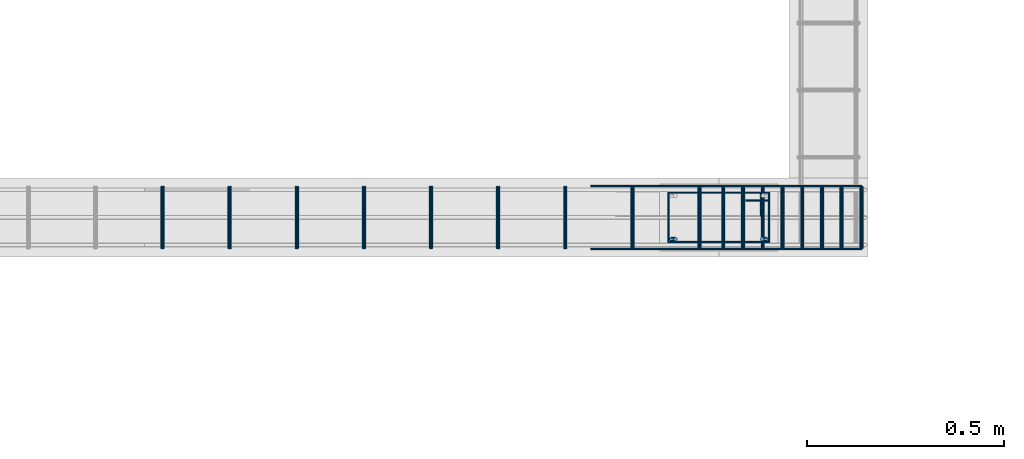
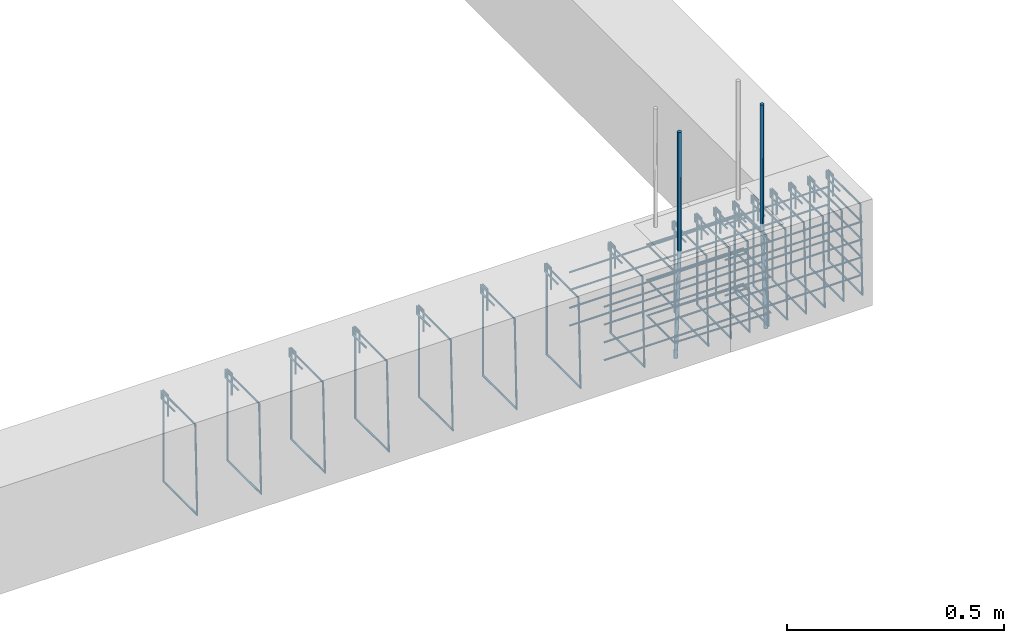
# One storey, part 73 of 150: 26 reinforcing bars.
"""IFC4 building model written with IfcOpenShell, lengths in centimetres."""

import ifcopenshell
import ifcopenshell.guid

model = None  # the IFC model being written
_history = None  # IfcOwnerHistory: only IFC2X3 demands one
_inside = {}  # id of a spatial element -> (the spatial element, [elements in it])
_under = {}  # id of a project, library or spatial element -> (it, [spatial elements below it])
_declared = {}  # id of a project -> (the project, [libraries it declares])
_typed = {}  # id of a type object -> (the type object, [elements of that type])
_made_of = {}  # id of a material, layer set ... -> (it, [elements and type objects made of it])


def new_model(schema):
    """Start an empty IFC model of exactly this schema.

    Asked for "IFC4X3", IfcOpenShell would pick the latest addendum, in which some entities
    have other attributes; the version numbers below select the first issue.
    IFC2X3 requires an IfcOwnerHistory on every rooted entity: one is made here for all.
    """
    global model, _history
    if schema == "IFC4X3":
        model = ifcopenshell.file(schema_version=(4, 3, 0, 0))
    else:
        model = ifcopenshell.file(schema=schema)
    _inside.clear()
    _under.clear()
    _declared.clear()
    _typed.clear()
    _made_of.clear()
    _history = None
    if model.schema == "IFC2X3":
        org = make("IfcOrganization", Name="unknown")
        user = make(
            "IfcPersonAndOrganization",
            ThePerson=make("IfcPerson", FamilyName="unknown"),
            TheOrganization=org,
        )
        app = make(
            "IfcApplication",
            ApplicationDeveloper=org,
            Version="unknown",
            ApplicationFullName="unknown",
            ApplicationIdentifier="unknown",
        )
        _history = make(
            "IfcOwnerHistory",
            OwningUser=user,
            OwningApplication=app,
            ChangeAction="ADDED",
            CreationDate=0,
        )
    return model


def make(cls, **values):
    """One entity of the class cls with the attributes given. An attribute that is None is left unset."""
    return model.create_entity(
        cls, **{name: value for name, value in values.items() if value is not None}
    )


def entity(cls, *values):
    """Any entity or typed value of the class cls, its attributes in the order of the schema. None: left unset."""
    e = model.create_entity(cls)
    for i, value in enumerate(values):
        if value is not None:
            e[i] = value
    return e


def rooted(cls, **values):
    """An entity with a GlobalId (a new one), such as an element, a storey or a relation."""
    return make(cls, GlobalId=ifcopenshell.guid.new(), OwnerHistory=_history, **values)


def si_unit(unit_type, name, prefix=None):
    """IfcSIUnit, for example si_unit("LENGTHUNIT", "METRE", prefix="MILLI")."""
    return make("IfcSIUnit", UnitType=unit_type, Prefix=prefix, Name=name)


def derived_unit(unit_type, elements):
    """IfcDerivedUnit: a product of units, each with its exponent."""
    return make(
        "IfcDerivedUnit",
        Elements=[
            make("IfcDerivedUnitElement", Unit=unit, Exponent=power)
            for unit, power in elements
        ],
        UnitType=unit_type,
    )


def assignment(units):
    """IfcUnitAssignment: the units of a project."""
    return None if units is None else make("IfcUnitAssignment", Units=units)


def point(xyz):
    """IfcCartesianPoint."""
    return None if xyz is None else make("IfcCartesianPoint", Coordinates=xyz)


def direction(xyz):
    """IfcDirection."""
    return None if xyz is None else make("IfcDirection", DirectionRatios=xyz)


def frame(location, z_axis=None, x_axis=None):
    """IfcAxis2Placement3D, a coordinate frame: its origin and axes. An axis left out is left unset."""
    return make(
        "IfcAxis2Placement3D",
        Location=point(location),
        Axis=direction(z_axis),
        RefDirection=direction(x_axis),
    )


def origin_with_axes():
    """The frame at (0, 0, 0) with the z axis (0, 0, 1) and the x axis (1, 0, 0) written out."""
    return frame((0.0, 0.0, 0.0), z_axis=(0.0, 0.0, 1.0), x_axis=(1.0, 0.0, 0.0))


def place(relative_to, where):
    """IfcLocalPlacement: puts the frame where relative to a parent placement (None: the world)."""
    return make(
        "IfcLocalPlacement", PlacementRelTo=relative_to, RelativePlacement=where
    )


def context(
    kind, dimensions, precision=None, world=None, true_north=None, identifier=None
):
    """IfcGeometricRepresentationContext, for example the 3D "Model" context."""
    return make(
        "IfcGeometricRepresentationContext",
        ContextIdentifier=identifier,
        ContextType=kind,
        CoordinateSpaceDimension=dimensions,
        Precision=precision,
        WorldCoordinateSystem=world,
        TrueNorth=true_north,
    )


def project(units=None, contexts=None):
    """IfcProject with its units and contexts."""
    return rooted(
        "IfcProject",
        Name="project",
        RepresentationContexts=contexts,
        UnitsInContext=assignment(units),
    )


def spatial(cls, under=None, at=None, **own):
    """A site, building, storey or space (cls), placed at a placement, below another one or the project."""
    s = rooted(cls, ObjectPlacement=at, **own)
    if under is not None:
        _under.setdefault(under.id(), (under, []))[1].append(s)
    return s


def shape(context_of_items, identifier, shape_type, items):
    """IfcShapeRepresentation: the items that make up one representation, for example the "Body"."""
    return make(
        "IfcShapeRepresentation",
        ContextOfItems=context_of_items,
        RepresentationIdentifier=identifier,
        RepresentationType=shape_type,
        Items=items,
    )


def source(mapping_origin, context_of_items, identifier, shape_type, items):
    """IfcRepresentationMap: a shape defined once, which mapped items show again and again."""
    return make(
        "IfcRepresentationMap",
        MappingOrigin=mapping_origin,
        MappedRepresentation=shape(context_of_items, identifier, shape_type, items),
    )


def transform(
    local_origin,
    x_axis=None,
    y_axis=None,
    z_axis=None,
    scale=None,
    scale2=None,
    scale3=None,
    uniform=True,
):
    """IfcCartesianTransformationOperator3D, or its non-uniform kind. x_axis, y_axis, z_axis: its Axis1, 2, 3."""
    if uniform:
        return make(
            "IfcCartesianTransformationOperator3D",
            Axis1=direction(x_axis),
            Axis2=direction(y_axis),
            LocalOrigin=point(local_origin),
            Scale=scale,
            Axis3=direction(z_axis),
        )
    return make(
        "IfcCartesianTransformationOperator3DnonUniform",
        Axis1=direction(x_axis),
        Axis2=direction(y_axis),
        LocalOrigin=point(local_origin),
        Scale=scale,
        Axis3=direction(z_axis),
        Scale2=scale2,
        Scale3=scale3,
    )


def mapped(mapping_source, mapping_target):
    """IfcMappedItem: shows the shape of a source again, moved by a transform."""
    return make(
        "IfcMappedItem", MappingSource=mapping_source, MappingTarget=mapping_target
    )


def made_of(thing, what):
    """Note that an element or type object is made of a material, layer set ...; save() writes the relation."""
    if what is not None:
        _made_of.setdefault(what.id(), (what, []))[1].append(thing)
    return thing


def element(
    cls,
    number,
    at=None,
    inside=None,
    cuts=None,
    type_object=None,
    material=None,
    context=None,
    identifier="Body",
    shape_type=None,
    held_by="IfcProductDefinitionShape",
    body=None,
    shapes=None,
    **own,
):
    """One element of the class cls, such as IfcWall. Its Tag is "e" and its number.

    at: its placement. inside: the storey or other place that contains it. cuts: it is an
    opening in that element (IfcRelVoidsElement). A single representation is given by context,
    identifier, shape_type and body (its items); several are given by shapes. held_by: the class
    of the entity that holds the representations. save() writes the other relations.
    """
    e = rooted(cls, Tag="e%d" % number, ObjectPlacement=at, **own)
    if body is not None:
        shapes = [shape(context, identifier, shape_type, body)]
    if shapes is not None:
        e.Representation = make(held_by, Representations=shapes)
    if inside is not None:
        _inside.setdefault(inside.id(), (inside, []))[1].append(e)
    if cuts is not None:
        rooted(
            "IfcRelVoidsElement", RelatingBuildingElement=cuts, RelatedOpeningElement=e
        )
    if type_object is not None:
        _typed.setdefault(type_object.id(), (type_object, []))[1].append(e)
    return made_of(e, material)


def aggregate(whole, parts):
    """IfcRelAggregates: a whole, such as a stair, and the parts it consists of."""
    return rooted("IfcRelAggregates", RelatingObject=whole, RelatedObjects=parts)


def save(model, path):
    """Write the relations noted so far, then the file.

    IfcRelAggregates (storeys below a building ...), IfcRelContainedInSpatialStructure (elements
    in a storey), IfcRelDefinesByType, IfcRelAssociatesMaterial and IfcRelDeclares: one each for
    every whole, place, type object, material and project.
    """
    for whole, parts in _under.values():
        aggregate(whole, parts)
    for where, things in _inside.values():
        rooted(
            "IfcRelContainedInSpatialStructure",
            RelatedElements=things,
            RelatingStructure=where,
        )
    for kind, things in _typed.values():
        rooted("IfcRelDefinesByType", RelatedObjects=things, RelatingType=kind)
    for what, things in _made_of.values():
        rooted("IfcRelAssociatesMaterial", RelatedObjects=things, RelatingMaterial=what)
    for by, libraries in _declared.values():
        rooted("IfcRelDeclares", RelatingContext=by, RelatedDefinitions=libraries)
    model.write(path)


model = new_model("IFC4")

# Units and contexts
model_context = context("Model", 3, precision=1e-05, world=origin_with_axes(), identifier="Body")
ifc_project = project(units=[si_unit("LENGTHUNIT", "METRE", prefix="CENTI"), si_unit("VOLUMEUNIT", "CUBIC_METRE"), si_unit("AREAUNIT", "SQUARE_METRE"), si_unit("POWERUNIT", "WATT"), si_unit("LUMINOUSFLUXUNIT", "LUMEN"), si_unit("ELECTRICCURRENTUNIT", "AMPERE"), si_unit("PRESSUREUNIT", "PASCAL", prefix="KILO"), si_unit("MASSUNIT", "GRAM", prefix="KILO"), si_unit("PLANEANGLEUNIT", "RADIAN"), derived_unit("VOLUMETRICFLOWRATEUNIT", [(si_unit("LENGTHUNIT", "METRE"), 3), (si_unit("TIMEUNIT", "SECOND"), -1)])], contexts=[model_context])

# Site, building, storey
site_placement = place(None, frame((-4000.0, 0.0, 0.0), z_axis=(0.0, 0.0, 1.0), x_axis=(1.0, 0.0, 0.0)))
site = spatial("IfcSite", under=ifc_project, at=site_placement, Name="PADRÃO")
building_placement = place(site_placement, frame((0.0, 0.0, -14.0)))
building = spatial("IfcBuilding", under=site, at=building_placement, Name="CRECHE PRÉ-ESCOLA TIPO 2")
placement = place(building_placement, origin_with_axes())
storey_placement = place(placement, frame((0.0, 0.0, 30.0), z_axis=(0.0, 0.0, 1.0), x_axis=(1.0, 0.0, 0.0)))
storey = spatial("IfcBuildingStorey", under=building, at=storey_placement, Name="VIGA BALDRAME", CompositionType="ELEMENT", Elevation=16.0)

# Reinforcing bars
shared_shape_1 = source(origin_with_axes(), model_context, "Body", "AdvancedSweptSolid", [
    entity("IfcSweptDiskSolid", entity("IfcCompositeCurve", [entity("IfcCompositeCurveSegment", "CONTINUOUS", True, entity("IfcPolyline", [entity("IfcCartesianPoint", [4.25, 21.75, 0.0]), entity("IfcCartesianPoint", [4.25, 27.75, 0.0])])), entity("IfcCompositeCurveSegment", "CONTINUOUS", True, entity("IfcPolyline", [entity("IfcCartesianPoint", [4.25, 27.75, 0.0]), entity("IfcCartesianPoint", [2.25, 27.75, 0.0])])), entity("IfcCompositeCurveSegment", "CONTINUOUS", True, entity("IfcPolyline", [entity("IfcCartesianPoint", [2.25, 27.75, 0.0]), entity("IfcCartesianPoint", [2.25, 2.25, 0.0])])), entity("IfcCompositeCurveSegment", "CONTINUOUS", True, entity("IfcPolyline", [entity("IfcCartesianPoint", [2.25, 2.25, 0.0]), entity("IfcCartesianPoint", [14.75, 2.25, 0.0])])), entity("IfcCompositeCurveSegment", "CONTINUOUS", True, entity("IfcPolyline", [entity("IfcCartesianPoint", [14.75, 2.25, 0.0]), entity("IfcCartesianPoint", [14.75, 27.75, -0.5])])), entity("IfcCompositeCurveSegment", "CONTINUOUS", True, entity("IfcPolyline", [entity("IfcCartesianPoint", [14.75, 27.75, -0.5]), entity("IfcCartesianPoint", [2.25, 27.75, -0.5])])), entity("IfcCompositeCurveSegment", "CONTINUOUS", True, entity("IfcPolyline", [entity("IfcCartesianPoint", [2.25, 27.75, -0.5]), entity("IfcCartesianPoint", [2.25, 25.75, -0.5])])), entity("IfcCompositeCurveSegment", "CONTINUOUS", True, entity("IfcPolyline", [entity("IfcCartesianPoint", [2.25, 25.75, -0.5]), entity("IfcCartesianPoint", [8.25, 25.75, -0.5])]))], False), 0.25),
])
for number, where, z_axis, x_axis, name in (
    (1, (1378.25, 3208.52, -25.0), (0.0, 0.0, 1.0), (0.0, -1.0, 0.0), "P51 - Estribo"),
    (2, (1378.25, 3208.52, -15.0), (0.0, 0.0, 1.0), (0.0, -1.0, 0.0), "P51 - Estribo"),
    (3, (1378.25, 3208.52, -5.0), (0.0, 0.0, 1.0), (0.0, -1.0, 0.0), "P51 - Estribo"),
):
    element("IfcReinforcingBar", number, at=place(storey_placement, frame(where, z_axis=z_axis, x_axis=x_axis)), inside=storey, Name=name, BarLength=0.0, CrossSectionArea=1.9634954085e-05, NominalDiameter=0.5, PredefinedType="MAIN", context=model_context, shape_type="MappedRepresentation", body=[
        mapped(shared_shape_1, transform((0.0, 0.0, 0.0), scale=1.0)),
    ])
shared_shape_2 = source(origin_with_axes(), model_context, "Body", "AdvancedSweptSolid", [
    entity("IfcSweptDiskSolid", entity("IfcCompositeCurve", [entity("IfcCompositeCurveSegment", "CONTINUOUS", True, entity("IfcPolyline", [entity("IfcCartesianPoint", [2.0, -6.0, 0.0]), entity("IfcCartesianPoint", [2.0, 0.0, 0.0])])), entity("IfcCompositeCurveSegment", "CONTINUOUS", True, entity("IfcPolyline", [entity("IfcCartesianPoint", [2.0, 0.0, 0.0]), entity("IfcCartesianPoint", [0.0, 0.0, 0.0])])), entity("IfcCompositeCurveSegment", "CONTINUOUS", True, entity("IfcPolyline", [entity("IfcCartesianPoint", [0.0, 0.0, 0.0]), entity("IfcCartesianPoint", [0.0, -25.5, 0.0])])), entity("IfcCompositeCurveSegment", "CONTINUOUS", True, entity("IfcPolyline", [entity("IfcCartesianPoint", [0.0, -25.5, 0.0]), entity("IfcCartesianPoint", [15.5, -25.5, 0.0])])), entity("IfcCompositeCurveSegment", "CONTINUOUS", True, entity("IfcPolyline", [entity("IfcCartesianPoint", [15.5, -25.5, 0.0]), entity("IfcCartesianPoint", [15.5, 0.0, 0.5])])), entity("IfcCompositeCurveSegment", "CONTINUOUS", True, entity("IfcPolyline", [entity("IfcCartesianPoint", [15.5, 0.0, 0.5]), entity("IfcCartesianPoint", [0.0, 0.0, 0.5])])), entity("IfcCompositeCurveSegment", "CONTINUOUS", True, entity("IfcPolyline", [entity("IfcCartesianPoint", [0.0, 0.0, 0.5]), entity("IfcCartesianPoint", [0.0, -2.0, 0.5])])), entity("IfcCompositeCurveSegment", "CONTINUOUS", True, entity("IfcPolyline", [entity("IfcCartesianPoint", [0.0, -2.0, 0.5]), entity("IfcCartesianPoint", [6.0, -2.0, 0.5])]))], False), 0.25),
])
for number, where, z_axis, x_axis, name in (
    (4, (1320.625, 3207.77, -2.25), (-1.0, 0.0, 0.0), (0.0, -1.0, 0.0), "V113 - Estribo"),
    (5, (1337.625, 3207.77, -2.25), (-1.0, 0.0, 0.0), (0.0, -1.0, 0.0), "V113 - Estribo"),
    (6, (1354.625, 3207.77, -2.25), (-1.0, 0.0, 0.0), (0.0, -1.0, 0.0), "V113 - Estribo"),
    (7, (1371.625, 3207.77, -2.25), (-1.0, 0.0, 0.0), (0.0, -1.0, 0.0), "V113 - Estribo"),
    (8, (1388.625, 3207.77, -2.25), (-1.0, 0.0, 0.0), (0.0, -1.0, 0.0), "V113 - Estribo"),
    (9, (1252.625, 3207.77, -2.25), (-1.0, 0.0, 0.0), (0.0, -1.0, 0.0), "V113 - Estribo"),
    (10, (1269.625, 3207.77, -2.25), (-1.0, 0.0, 0.0), (0.0, -1.0, 0.0), "V113 - Estribo"),
    (11, (1286.625, 3207.77, -2.25), (-1.0, 0.0, 0.0), (0.0, -1.0, 0.0), "V113 - Estribo"),
    (12, (1303.625, 3207.77, -2.25), (-1.0, 0.0, 0.0), (0.0, -1.0, 0.0), "V113 - Estribo"),
):
    element("IfcReinforcingBar", number, at=place(storey_placement, frame(where, z_axis=z_axis, x_axis=x_axis)), inside=storey, Name=name, BarLength=0.0, CrossSectionArea=1.9634954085e-05, NominalDiameter=0.5, PredefinedType="MAIN", context=model_context, shape_type="MappedRepresentation", body=[
        mapped(shared_shape_2, transform((0.0, 0.0, 0.0), scale=1.0)),
    ])
shared_shape_3 = source(origin_with_axes(), model_context, "Body", "AdvancedSweptSolid", [
    entity("IfcSweptDiskSolid", entity("IfcCompositeCurve", [entity("IfcCompositeCurveSegment", "CONTINUOUS", True, entity("IfcPolyline", [entity("IfcCartesianPoint", [2.0, -6.0, 0.0]), entity("IfcCartesianPoint", [2.0, 0.0, 0.0])])), entity("IfcCompositeCurveSegment", "CONTINUOUS", True, entity("IfcPolyline", [entity("IfcCartesianPoint", [2.0, 0.0, 0.0]), entity("IfcCartesianPoint", [0.0, 0.0, 0.0])])), entity("IfcCompositeCurveSegment", "CONTINUOUS", True, entity("IfcPolyline", [entity("IfcCartesianPoint", [0.0, 0.0, 0.0]), entity("IfcCartesianPoint", [0.0, -25.5, 0.0])])), entity("IfcCompositeCurveSegment", "CONTINUOUS", True, entity("IfcPolyline", [entity("IfcCartesianPoint", [0.0, -25.5, 0.0]), entity("IfcCartesianPoint", [15.5, -25.5, 0.0])])), entity("IfcCompositeCurveSegment", "CONTINUOUS", True, entity("IfcPolyline", [entity("IfcCartesianPoint", [15.5, -25.5, 0.0]), entity("IfcCartesianPoint", [15.5, 0.0, 0.5])])), entity("IfcCompositeCurveSegment", "CONTINUOUS", True, entity("IfcPolyline", [entity("IfcCartesianPoint", [15.5, 0.0, 0.5]), entity("IfcCartesianPoint", [0.0, 0.0, 0.5])])), entity("IfcCompositeCurveSegment", "CONTINUOUS", True, entity("IfcPolyline", [entity("IfcCartesianPoint", [0.0, 0.0, 0.5]), entity("IfcCartesianPoint", [0.0, -2.0, 0.5])])), entity("IfcCompositeCurveSegment", "CONTINUOUS", True, entity("IfcPolyline", [entity("IfcCartesianPoint", [0.0, -2.0, 0.5]), entity("IfcCartesianPoint", [6.0, -2.0, 0.5])]))], False), 0.25),
])
for number, where, z_axis, x_axis, name in (
    (13, (1394.64, 3207.77, -2.25), (-1.0, 0.0, 0.0), (0.0, -1.0, 0.0), "V113 - Estribo"),
    (14, (1399.64, 3207.77, -2.25), (-1.0, 0.0, 0.0), (0.0, -1.0, 0.0), "V113 - Estribo"),
    (15, (1404.64, 3207.77, -2.25), (-1.0, 0.0, 0.0), (0.0, -1.0, 0.0), "V113 - Estribo"),
    (16, (1409.64, 3207.77, -2.25), (-1.0, 0.0, 0.0), (0.0, -1.0, 0.0), "V113 - Estribo"),
    (17, (1414.64, 3207.77, -2.25), (-1.0, 0.0, 0.0), (0.0, -1.0, 0.0), "V113 - Estribo"),
    (18, (1419.64, 3207.77, -2.25), (-1.0, 0.0, 0.0), (0.0, -1.0, 0.0), "V113 - Estribo"),
    (19, (1424.64, 3207.77, -2.25), (-1.0, 0.0, 0.0), (0.0, -1.0, 0.0), "V113 - Estribo"),
    (20, (1429.64, 3207.77, -2.25), (-1.0, 0.0, 0.0), (0.0, -1.0, 0.0), "V113 - Estribo"),
):
    element("IfcReinforcingBar", number, at=place(storey_placement, frame(where, z_axis=z_axis, x_axis=x_axis)), inside=storey, Name=name, BarLength=0.0, CrossSectionArea=1.9634954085e-05, NominalDiameter=0.5, PredefinedType="MAIN", context=model_context, shape_type="MappedRepresentation", body=[
        mapped(shared_shape_3, transform((0.0, 0.0, 0.0), scale=1.0)),
    ])
shared_shape_4 = source(origin_with_axes(), model_context, "Body", "AdvancedSweptSolid", [
    entity("IfcSweptDiskSolid", entity("IfcCompositeCurve", [entity("IfcCompositeCurveSegment", "CONTINUOUS", True, entity("IfcPolyline", [entity("IfcCartesianPoint", [0.0, 0.0, 0.0]), entity("IfcCartesianPoint", [68.4813828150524, 0.0, 0.0])])), entity("IfcCompositeCurveSegment", "CONTINUOUS", True, entity("IfcPolyline", [entity("IfcCartesianPoint", [68.4813828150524, 0.0, 0.0]), entity("IfcCartesianPoint", [68.4813828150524, 16.0, 0.0])])), entity("IfcCompositeCurveSegment", "CONTINUOUS", True, entity("IfcPolyline", [entity("IfcCartesianPoint", [68.4813828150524, 16.0, 0.0]), entity("IfcCartesianPoint", [0.0, 16.0, 0.0])]))], False), 0.25),
])
for number, where, z_axis, x_axis, name in (
    (21, (1360.79861718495, 3192.02, -22.0), (0.0, 0.0, 1.0), (1.0, 0.0, 0.0), "V113 - Grampo"),
    (22, (1360.79861718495, 3192.02, -7.0), (0.0, 0.0, 1.0), (1.0, 0.0, 0.0), "V113 - Grampo"),
    (23, (1360.79861718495, 3192.02, -17.0), (0.0, 0.0, 1.0), (1.0, 0.0, 0.0), "V113 - Grampo"),
    (24, (1360.79861718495, 3192.02, -12.0), (0.0, 0.0, 1.0), (1.0, 0.0, 0.0), "V113 - Grampo"),
):
    element("IfcReinforcingBar", number, at=place(storey_placement, frame(where, z_axis=z_axis, x_axis=x_axis)), inside=storey, Name=name, BarLength=0.0, CrossSectionArea=1.9634954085e-05, NominalDiameter=0.5, PredefinedType="MAIN", context=model_context, shape_type="MappedRepresentation", body=[
        mapped(shared_shape_4, transform((0.0, 0.0, 0.0), scale=1.0)),
    ])
reinforcing_bar_1_placement = place(storey_placement, frame((1404.74986122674, 3194.52, 33.3573001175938), z_axis=(0.0, 0.0, 1.0), x_axis=(1.0, 0.0, 0.0)))
element("IfcReinforcingBar", 25, at=reinforcing_bar_1_placement, inside=storey, Name="P51 - Longitudinal", BarLength=0.0, CrossSectionArea=7.853981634e-05, NominalDiameter=1.0, PredefinedType="MAIN", context=model_context, shape_type="AdvancedSweptSolid", body=[
    entity("IfcSweptDiskSolid", entity("IfcCompositeCurve", [entity("IfcCompositeCurveSegment", "CONTINUOUS", True, entity("IfcPolyline", [entity("IfcCartesianPoint", [0.50013877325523, 0.0, -63.3573001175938]), entity("IfcCartesianPoint", [-0.49986122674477, 0.0, -33.3573001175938])])), entity("IfcCompositeCurveSegment", "CONTINUOUS", True, entity("IfcPolyline", [entity("IfcCartesianPoint", [-0.49986122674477, 0.0, -33.3573001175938]), entity("IfcCartesianPoint", [-0.49986122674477, 0.0, 0.0])]))], False), 0.5),
])
reinforcing_bar_2_placement = place(storey_placement, frame((1381.75013877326, 3194.52, 33.3573001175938), z_axis=(0.0, 0.0, 1.0), x_axis=(1.0, 0.0, 0.0)))
element("IfcReinforcingBar", 26, at=reinforcing_bar_2_placement, inside=storey, Name="P51 - Longitudinal", BarLength=0.0, CrossSectionArea=7.853981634e-05, NominalDiameter=1.0, PredefinedType="MAIN", context=model_context, shape_type="AdvancedSweptSolid", body=[
    entity("IfcSweptDiskSolid", entity("IfcCompositeCurve", [entity("IfcCompositeCurveSegment", "CONTINUOUS", True, entity("IfcPolyline", [entity("IfcCartesianPoint", [-0.50013877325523, 0.0, -63.3573001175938]), entity("IfcCartesianPoint", [0.49986122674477, 0.0, -33.3573001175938])])), entity("IfcCompositeCurveSegment", "CONTINUOUS", True, entity("IfcPolyline", [entity("IfcCartesianPoint", [0.49986122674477, 0.0, -33.3573001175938]), entity("IfcCartesianPoint", [0.49986122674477, 0.0, 0.0])]))], False), 0.5),
])

save(model, "model.ifc")
